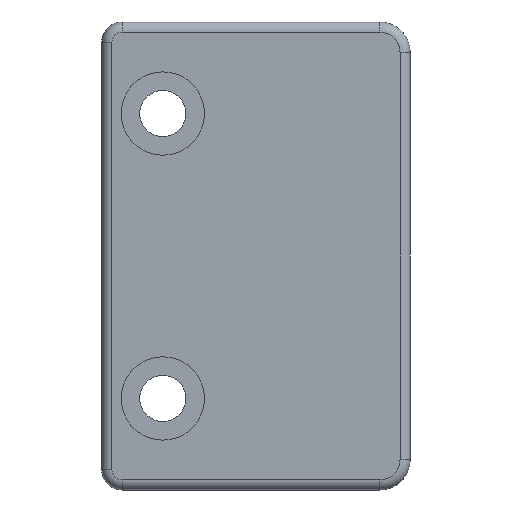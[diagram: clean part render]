
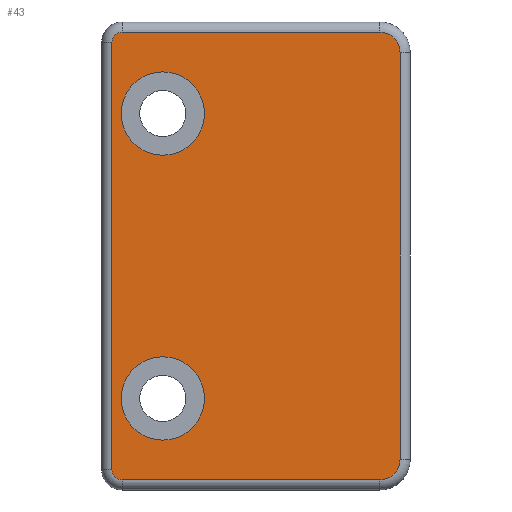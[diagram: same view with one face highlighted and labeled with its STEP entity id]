
A CAD part, left-side view. The second image highlights one B-rep face of the part: STEP entity #43.
In plain terms, the highlighted planar face has unit normal (-1, 0, 0).
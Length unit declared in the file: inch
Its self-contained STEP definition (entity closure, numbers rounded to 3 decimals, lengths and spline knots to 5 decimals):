
#24 = DIRECTION ( 'NONE',  ( 0., 0., 1. ) ) ;
#40 = CARTESIAN_POINT ( 'NONE',  ( -1.3686, 0.51, 1.2842 ) ) ;
#43 = ADVANCED_FACE ( 'NONE', ( #684, #1345, #1388 ), #682, .F. ) ;
#58 = EDGE_CURVE ( 'NONE', #920, #278, #164, .T. ) ;
#59 = DIRECTION ( 'NONE',  ( 0., 0., 1. ) ) ;
#66 = VECTOR ( 'NONE', #384, 39.37008 ) ;
#140 = VERTEX_POINT ( 'NONE', #791 ) ;
#148 = CARTESIAN_POINT ( 'NONE',  ( -1.3686, -0.21875, 1.34375 ) ) ;
#152 = CARTESIAN_POINT ( 'NONE',  ( -1.3686, 0.51, 0.28125 ) ) ;
#157 = VERTEX_POINT ( 'NONE', #148 ) ;
#164 = CIRCLE ( 'NONE', #951, 0.12795 ) ;
#197 = CARTESIAN_POINT ( 'NONE',  ( -1.3686, 0.66625, 1.4375 ) ) ;
#215 = EDGE_CURVE ( 'NONE', #140, #274, #1458, .T. ) ;
#220 = EDGE_CURVE ( 'NONE', #1381, #793, #1057, .T. ) ;
#274 = VERTEX_POINT ( 'NONE', #537 ) ;
#278 = VERTEX_POINT ( 'NONE', #550 ) ;
#293 = CARTESIAN_POINT ( 'NONE',  ( -1.3686, 0.635, 0.03125 ) ) ;
#374 = AXIS2_PLACEMENT_3D ( 'NONE', #1196, #514, #851 ) ;
#383 = ORIENTED_EDGE ( 'NONE', *, *, #448, .F. ) ;
#384 = DIRECTION ( 'NONE',  ( 0., 1., 0. ) ) ;
#389 = DIRECTION ( 'NONE',  ( 0., 0., 1. ) ) ;
#392 = EDGE_CURVE ( 'NONE', #157, #707, #640, .T. ) ;
#399 = AXIS2_PLACEMENT_3D ( 'NONE', #1085, #1293, #625 ) ;
#407 = CIRCLE ( 'NONE', #1241, 0.03125 ) ;
#411 = DIRECTION ( 'NONE',  ( 0., 0., -1. ) ) ;
#413 = CARTESIAN_POINT ( 'NONE',  ( -1.3686, 0.51, 1.15625 ) ) ;
#428 = CARTESIAN_POINT ( 'NONE',  ( -1.3686, -0.21875, 1.4375 ) ) ;
#437 = ORIENTED_EDGE ( 'NONE', *, *, #220, .T. ) ;
#448 = EDGE_CURVE ( 'NONE', #659, #1230, #1056, .T. ) ;
#501 = EDGE_CURVE ( 'NONE', #274, #1381, #1167, .T. ) ;
#511 = LINE ( 'NONE', #1177, #66 ) ;
#514 = DIRECTION ( 'NONE',  ( -1., 0., 0. ) ) ;
#525 = CARTESIAN_POINT ( 'NONE',  ( -1.3686, -0.15625, 1.40625 ) ) ;
#527 = VERTEX_POINT ( 'NONE', #844 ) ;
#530 = ORIENTED_EDGE ( 'NONE', *, *, #501, .T. ) ;
#532 = CARTESIAN_POINT ( 'NONE',  ( -1.3686, 0.51, 0.28125 ) ) ;
#537 = CARTESIAN_POINT ( 'NONE',  ( -1.3686, 0.66625, 0.0625 ) ) ;
#550 = CARTESIAN_POINT ( 'NONE',  ( -1.3686, 0.51, 0.1533 ) ) ;
#551 = DIRECTION ( 'NONE',  ( 0., 0., -1. ) ) ;
#575 = VECTOR ( 'NONE', #411, 39.37008 ) ;
#591 = ORIENTED_EDGE ( 'NONE', *, *, #1387, .T. ) ;
#617 = DIRECTION ( 'NONE',  ( -1., 0., 0. ) ) ;
#623 = ORIENTED_EDGE ( 'NONE', *, *, #58, .F. ) ;
#624 = AXIS2_PLACEMENT_3D ( 'NONE', #1425, #732, #1072 ) ;
#625 = DIRECTION ( 'NONE',  ( 0., 0., -1. ) ) ;
#632 = VECTOR ( 'NONE', #1236, 39.37008 ) ;
#640 = CIRCLE ( 'NONE', #624, 0.0625 ) ;
#659 = VERTEX_POINT ( 'NONE', #988 ) ;
#667 = CIRCLE ( 'NONE', #374, 0.0625 ) ;
#669 = CIRCLE ( 'NONE', #1452, 0.12795 ) ;
#682 = PLANE ( 'NONE',  #908 ) ;
#684 = FACE_BOUND ( 'NONE', #1279, .T. ) ;
#694 = CARTESIAN_POINT ( 'NONE',  ( -1.3686, 0.6975, 1.4375 ) ) ;
#707 = VERTEX_POINT ( 'NONE', #525 ) ;
#719 = VERTEX_POINT ( 'NONE', #1108 ) ;
#732 = DIRECTION ( 'NONE',  ( -1., 0., 0. ) ) ;
#758 = LINE ( 'NONE', #428, #632 ) ;
#786 = DIRECTION ( 'NONE',  ( -1., 0., 0. ) ) ;
#791 = CARTESIAN_POINT ( 'NONE',  ( -1.3686, 0.66625, 1.375 ) ) ;
#793 = VERTEX_POINT ( 'NONE', #905 ) ;
#816 = EDGE_CURVE ( 'NONE', #527, #157, #758, .T. ) ;
#829 = ORIENTED_EDGE ( 'NONE', *, *, #215, .T. ) ;
#842 = AXIS2_PLACEMENT_3D ( 'NONE', #413, #1215, #24 ) ;
#844 = CARTESIAN_POINT ( 'NONE',  ( -1.3686, -0.21875, 0.09375 ) ) ;
#851 = DIRECTION ( 'NONE',  ( 0., 0., -1. ) ) ;
#887 = CARTESIAN_POINT ( 'NONE',  ( -1.3686, 0.51, 0.4092 ) ) ;
#905 = CARTESIAN_POINT ( 'NONE',  ( -1.3686, -0.15625, 0.03125 ) ) ;
#908 = AXIS2_PLACEMENT_3D ( 'NONE', #694, #922, #930 ) ;
#920 = VERTEX_POINT ( 'NONE', #887 ) ;
#922 = DIRECTION ( 'NONE',  ( 1., 0., 0. ) ) ;
#930 = DIRECTION ( 'NONE',  ( 0., 0., -1. ) ) ;
#951 = AXIS2_PLACEMENT_3D ( 'NONE', #532, #1107, #59 ) ;
#956 = DIRECTION ( 'NONE',  ( -1., 0., 0. ) ) ;
#965 = DIRECTION ( 'NONE',  ( 0., 0., 1. ) ) ;
#988 = CARTESIAN_POINT ( 'NONE',  ( -1.3686, 0.51, 1.0283 ) ) ;
#1018 = EDGE_CURVE ( 'NONE', #719, #140, #407, .T. ) ;
#1056 = CIRCLE ( 'NONE', #842, 0.12795 ) ;
#1057 = LINE ( 'NONE', #1320, #1324 ) ;
#1072 = DIRECTION ( 'NONE',  ( 0., 0., -1. ) ) ;
#1085 = CARTESIAN_POINT ( 'NONE',  ( -1.3686, 0.635, 0.0625 ) ) ;
#1090 = DIRECTION ( 'NONE',  ( 0., -1., 0. ) ) ;
#1099 = ORIENTED_EDGE ( 'NONE', *, *, #1269, .T. ) ;
#1107 = DIRECTION ( 'NONE',  ( -1., 0., 0. ) ) ;
#1108 = CARTESIAN_POINT ( 'NONE',  ( -1.3686, 0.635, 1.40625 ) ) ;
#1167 = CIRCLE ( 'NONE', #399, 0.03125 ) ;
#1177 = CARTESIAN_POINT ( 'NONE',  ( -1.3686, 0.635, 1.40625 ) ) ;
#1196 = CARTESIAN_POINT ( 'NONE',  ( -1.3686, -0.15625, 0.09375 ) ) ;
#1210 = CIRCLE ( 'NONE', #1403, 0.12795 ) ;
#1215 = DIRECTION ( 'NONE',  ( -1., 0., 0. ) ) ;
#1230 = VERTEX_POINT ( 'NONE', #40 ) ;
#1233 = EDGE_LOOP ( 'NONE', ( #1259, #383 ) ) ;
#1236 = DIRECTION ( 'NONE',  ( 0., 0., 1. ) ) ;
#1241 = AXIS2_PLACEMENT_3D ( 'NONE', #1253, #786, #551 ) ;
#1242 = EDGE_CURVE ( 'NONE', #278, #920, #669, .T. ) ;
#1244 = ORIENTED_EDGE ( 'NONE', *, *, #392, .T. ) ;
#1253 = CARTESIAN_POINT ( 'NONE',  ( -1.3686, 0.635, 1.375 ) ) ;
#1259 = ORIENTED_EDGE ( 'NONE', *, *, #1296, .F. ) ;
#1269 = EDGE_CURVE ( 'NONE', #707, #719, #511, .T. ) ;
#1279 = EDGE_LOOP ( 'NONE', ( #623, #1288 ) ) ;
#1288 = ORIENTED_EDGE ( 'NONE', *, *, #1242, .F. ) ;
#1293 = DIRECTION ( 'NONE',  ( -1., 0., 0. ) ) ;
#1296 = EDGE_CURVE ( 'NONE', #1230, #659, #1210, .T. ) ;
#1320 = CARTESIAN_POINT ( 'NONE',  ( -1.3686, 0.6975, 0.03125 ) ) ;
#1324 = VECTOR ( 'NONE', #1090, 39.37008 ) ;
#1335 = ORIENTED_EDGE ( 'NONE', *, *, #1018, .T. ) ;
#1345 = FACE_BOUND ( 'NONE', #1233, .T. ) ;
#1356 = ORIENTED_EDGE ( 'NONE', *, *, #816, .T. ) ;
#1381 = VERTEX_POINT ( 'NONE', #293 ) ;
#1387 = EDGE_CURVE ( 'NONE', #793, #527, #667, .T. ) ;
#1388 = FACE_OUTER_BOUND ( 'NONE', #1413, .T. ) ;
#1403 = AXIS2_PLACEMENT_3D ( 'NONE', #1418, #956, #389 ) ;
#1413 = EDGE_LOOP ( 'NONE', ( #1099, #1335, #829, #530, #437, #591, #1356, #1244 ) ) ;
#1418 = CARTESIAN_POINT ( 'NONE',  ( -1.3686, 0.51, 1.15625 ) ) ;
#1425 = CARTESIAN_POINT ( 'NONE',  ( -1.3686, -0.15625, 1.34375 ) ) ;
#1452 = AXIS2_PLACEMENT_3D ( 'NONE', #152, #617, #965 ) ;
#1458 = LINE ( 'NONE', #197, #575 ) ;
